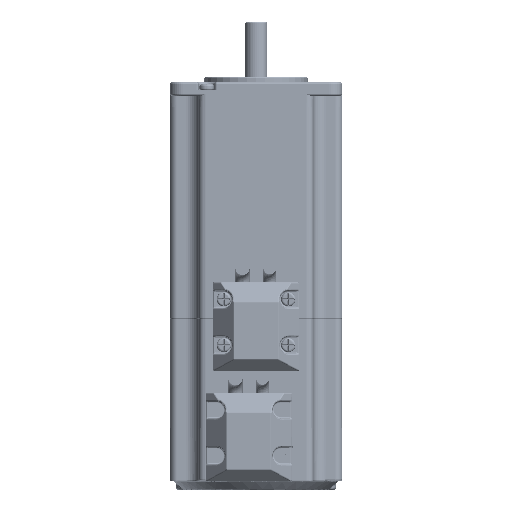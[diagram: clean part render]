
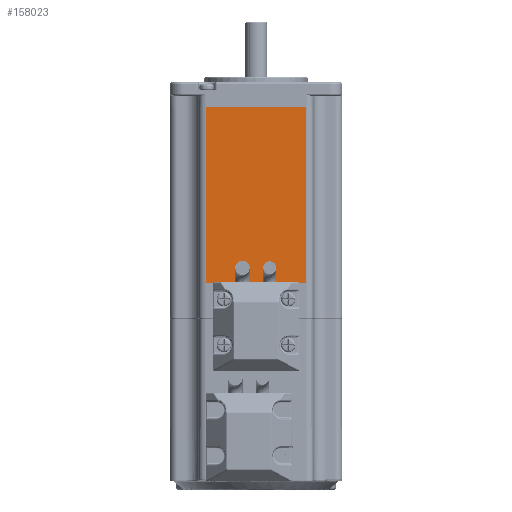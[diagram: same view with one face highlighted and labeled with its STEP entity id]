
A CAD part, front view. The second image highlights one B-rep face of the part: STEP entity #158023.
In plain terms, the highlighted planar face has unit normal (0, -1, 0).
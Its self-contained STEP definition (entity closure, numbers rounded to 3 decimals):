
#22737 = DIRECTION ( 'NONE',  ( 0., 0., 1. ) ) ;
#23439 = EDGE_CURVE ( 'NONE', #236214, #176830, #109759, .T. ) ;
#47561 = FACE_OUTER_BOUND ( 'NONE', #168080, .T. ) ;
#48517 = PLANE ( 'NONE',  #210507 ) ;
#70057 = CARTESIAN_POINT ( 'NONE',  ( -36.433, -27.14, -4.922 ) ) ;
#77943 = ORIENTED_EDGE ( 'NONE', *, *, #23439, .F. ) ;
#80036 = DIRECTION ( 'NONE',  ( 0., 0., -1. ) ) ;
#80833 = LINE ( 'NONE', #190959, #173575 ) ;
#85888 = DIRECTION ( 'NONE',  ( 0., 1., 0. ) ) ;
#87474 = VECTOR ( 'NONE', #22737, 1000. ) ;
#92288 = LINE ( 'NONE', #209282, #190774 ) ;
#98397 = DIRECTION ( 'NONE',  ( 1., 0., 0. ) ) ;
#109759 = LINE ( 'NONE', #189392, #196627 ) ;
#121165 = VERTEX_POINT ( 'NONE', #70057 ) ;
#123986 = EDGE_CURVE ( 'NONE', #121165, #236214, #235387, .T. ) ;
#137100 = ORIENTED_EDGE ( 'NONE', *, *, #123986, .F. ) ;
#157938 = CARTESIAN_POINT ( 'NONE',  ( -1.433, -27.14, 56.578 ) ) ;
#158023 = ADVANCED_FACE ( 'NONE', ( #47561 ), #48517, .F. ) ;
#159298 = ORIENTED_EDGE ( 'NONE', *, *, #234689, .T. ) ;
#168080 = EDGE_LOOP ( 'NONE', ( #77943, #137100, #159298, #199952 ) ) ;
#173575 = VECTOR ( 'NONE', #80036, 1000. ) ;
#176830 = VERTEX_POINT ( 'NONE', #157938 ) ;
#183998 = CARTESIAN_POINT ( 'NONE',  ( -36.433, -27.14, 56.578 ) ) ;
#189392 = CARTESIAN_POINT ( 'NONE',  ( 8.567, -27.14, 56.578 ) ) ;
#190774 = VECTOR ( 'NONE', #98397, 1000. ) ;
#190959 = CARTESIAN_POINT ( 'NONE',  ( -1.433, -27.14, 56.578 ) ) ;
#196627 = VECTOR ( 'NONE', #208068, 1000. ) ;
#199952 = ORIENTED_EDGE ( 'NONE', *, *, #232856, .F. ) ;
#203006 = VERTEX_POINT ( 'NONE', #223822 ) ;
#208068 = DIRECTION ( 'NONE',  ( 1., 0., 0. ) ) ;
#209282 = CARTESIAN_POINT ( 'NONE',  ( -36.433, -27.14, -4.922 ) ) ;
#210507 = AXIS2_PLACEMENT_3D ( 'NONE', #214683, #85888, #215496 ) ;
#214683 = CARTESIAN_POINT ( 'NONE',  ( -36.433, -27.14, 56.578 ) ) ;
#215496 = DIRECTION ( 'NONE',  ( 0., 0., 1. ) ) ;
#223822 = CARTESIAN_POINT ( 'NONE',  ( -1.433, -27.14, -4.922 ) ) ;
#226263 = CARTESIAN_POINT ( 'NONE',  ( -36.433, -27.14, 56.578 ) ) ;
#232856 = EDGE_CURVE ( 'NONE', #176830, #203006, #80833, .T. ) ;
#234689 = EDGE_CURVE ( 'NONE', #121165, #203006, #92288, .T. ) ;
#235387 = LINE ( 'NONE', #226263, #87474 ) ;
#236214 = VERTEX_POINT ( 'NONE', #183998 ) ;
